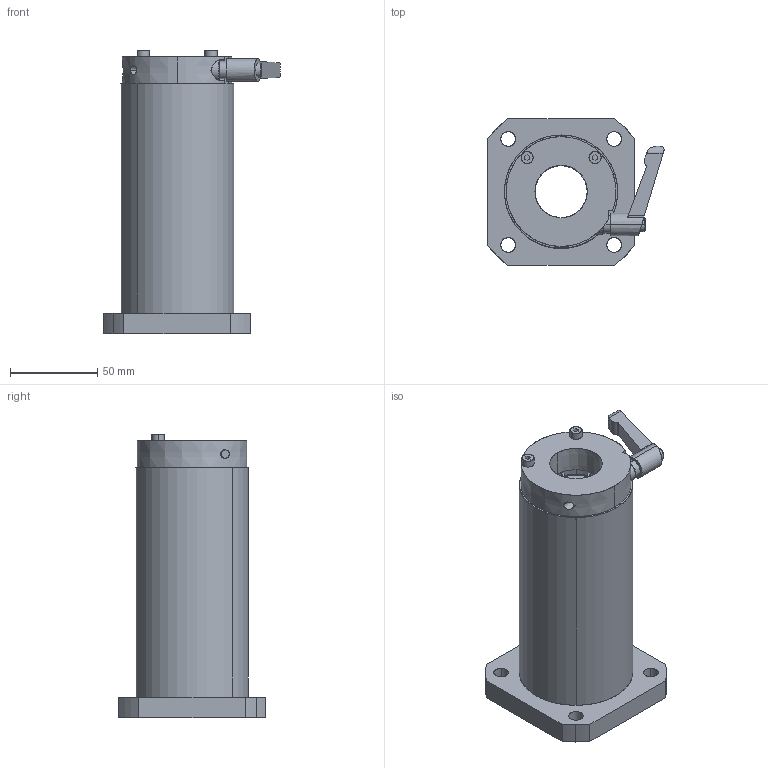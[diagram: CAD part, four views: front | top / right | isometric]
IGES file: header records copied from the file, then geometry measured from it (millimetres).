
Start section: SolidWorks IGES file using analytic representation for surfaces
Global section: file name: C:\Users\yamad\Desktop\IGES\LFWK30-CS.IGS; native system: SolidWorks 2019; preprocessor: SolidWorks 2019; author: yamad; date: 230626.165258; units: millimetre
Bounding box: 101.1 x 84 x 163 mm (x, y, z)
Surface area: 79355.3 mm2 (no closed solid volume)
Topology: 0 solids, 0 shells, 199 faces, 5011 edges, 5011 vertices
Faces by surface type: bspline 108, revolution 91
